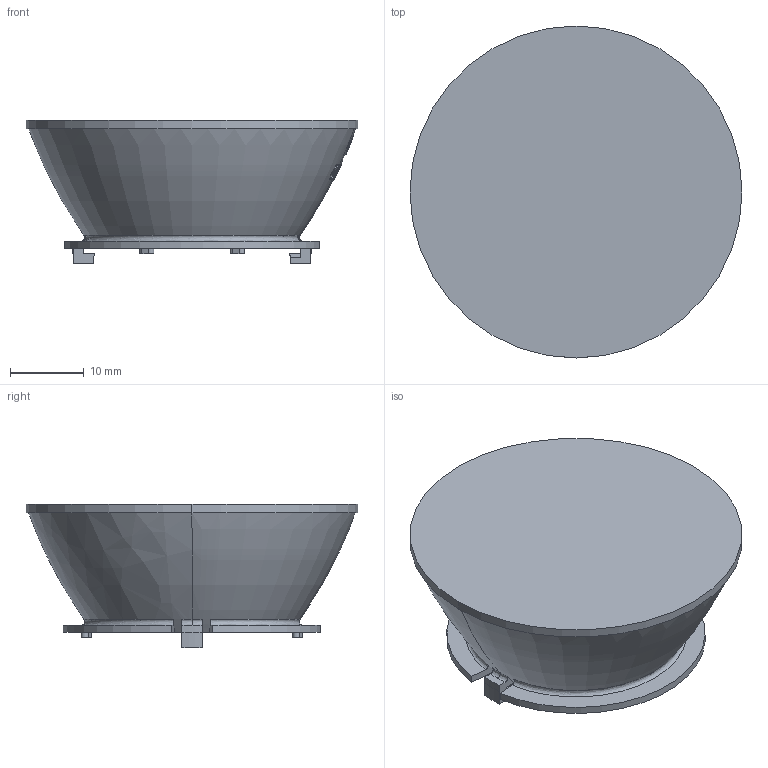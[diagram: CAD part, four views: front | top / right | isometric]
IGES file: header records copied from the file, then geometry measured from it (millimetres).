
Global section: file name: C:\CoreTechnologie\3D-in\020YC00Y06.igs; native system: CT CoreTechnologie 3D Evolution; preprocessor: 2006; author: assmuth; date: 1170715.115627; units: metre
Bounding box: 45 x 45 x 19.5 mm (x, y, z)
Volume: 19607.1 mm3; surface area: 5197.7 mm2
Topology: 1 solids, 1 shells, 162 faces, 433 edges, 289 vertices
Faces by surface type: plane 96, revolution 48, extrusion 18
